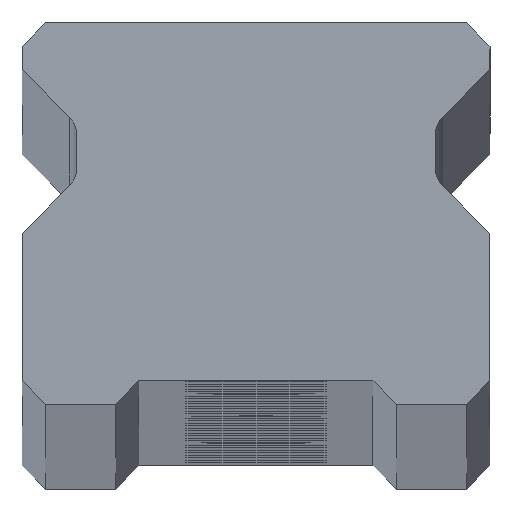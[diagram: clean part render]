
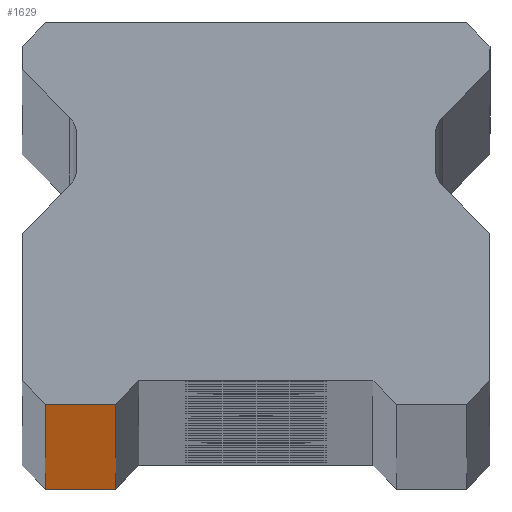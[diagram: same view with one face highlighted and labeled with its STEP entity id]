
A CAD part, top view. The second image highlights one B-rep face of the part: STEP entity #1629.
In plain terms, the highlighted planar face has unit normal (0, -1, 0).
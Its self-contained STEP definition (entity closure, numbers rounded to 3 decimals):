
#124 = DIRECTION ( 'NONE',  ( 0., 1., 0. ) ) ;
#298 = ORIENTED_EDGE ( 'NONE', *, *, #5409, .T. ) ;
#409 = LINE ( 'NONE', #4306, #2209 ) ;
#457 = VECTOR ( 'NONE', #2083, 1000. ) ;
#584 = CARTESIAN_POINT ( 'NONE',  ( -9., 0., 1040. ) ) ;
#842 = DIRECTION ( 'NONE',  ( 1., 0., 0. ) ) ;
#890 = ORIENTED_EDGE ( 'NONE', *, *, #2159, .F. ) ;
#898 = CARTESIAN_POINT ( 'NONE',  ( -6., 0., -1040. ) ) ;
#972 = DIRECTION ( 'NONE',  ( 1., 0., 0. ) ) ;
#974 = VERTEX_POINT ( 'NONE', #898 ) ;
#1039 = EDGE_CURVE ( 'NONE', #974, #4973, #3127, .T. ) ;
#1288 = CARTESIAN_POINT ( 'NONE',  ( 10., 0., 1040. ) ) ;
#1458 = VERTEX_POINT ( 'NONE', #5208 ) ;
#1512 = PLANE ( 'NONE',  #1864 ) ;
#1629 = ADVANCED_FACE ( 'NONE', ( #5037 ), #1512, .F. ) ;
#1864 = AXIS2_PLACEMENT_3D ( 'NONE', #1971, #124, #5839 ) ;
#1971 = CARTESIAN_POINT ( 'NONE',  ( 10., 0., 1040. ) ) ;
#2083 = DIRECTION ( 'NONE',  ( 0., 0., -1. ) ) ;
#2159 = EDGE_CURVE ( 'NONE', #3949, #4973, #5776, .T. ) ;
#2209 = VECTOR ( 'NONE', #972, 1000. ) ;
#2322 = ORIENTED_EDGE ( 'NONE', *, *, #1039, .T. ) ;
#2480 = CARTESIAN_POINT ( 'NONE',  ( -6., 0., -1040. ) ) ;
#2590 = EDGE_CURVE ( 'NONE', #1458, #974, #409, .T. ) ;
#3127 = LINE ( 'NONE', #2480, #4813 ) ;
#3233 = LINE ( 'NONE', #4998, #457 ) ;
#3701 = CARTESIAN_POINT ( 'NONE',  ( -6., 0., 1040. ) ) ;
#3949 = VERTEX_POINT ( 'NONE', #584 ) ;
#4267 = EDGE_LOOP ( 'NONE', ( #6180, #2322, #890, #298 ) ) ;
#4306 = CARTESIAN_POINT ( 'NONE',  ( 10., 0., -1040. ) ) ;
#4489 = VECTOR ( 'NONE', #842, 1000. ) ;
#4813 = VECTOR ( 'NONE', #4897, 1000. ) ;
#4897 = DIRECTION ( 'NONE',  ( 0., 0., 1. ) ) ;
#4973 = VERTEX_POINT ( 'NONE', #3701 ) ;
#4998 = CARTESIAN_POINT ( 'NONE',  ( -9., 0., 1040. ) ) ;
#5037 = FACE_OUTER_BOUND ( 'NONE', #4267, .T. ) ;
#5208 = CARTESIAN_POINT ( 'NONE',  ( -9., 0., -1040. ) ) ;
#5409 = EDGE_CURVE ( 'NONE', #3949, #1458, #3233, .T. ) ;
#5776 = LINE ( 'NONE', #1288, #4489 ) ;
#5839 = DIRECTION ( 'NONE',  ( -1., 0., 0. ) ) ;
#6180 = ORIENTED_EDGE ( 'NONE', *, *, #2590, .T. ) ;
